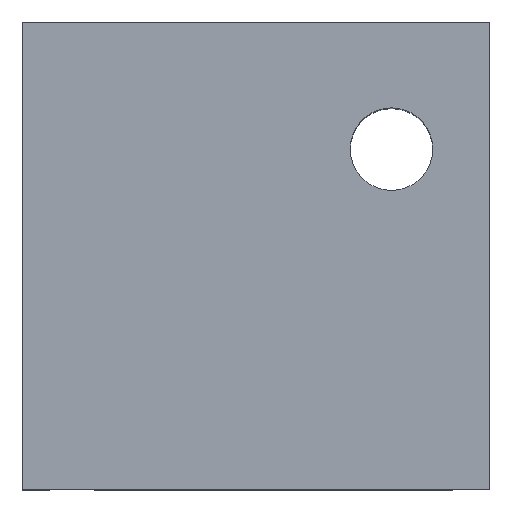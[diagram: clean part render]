
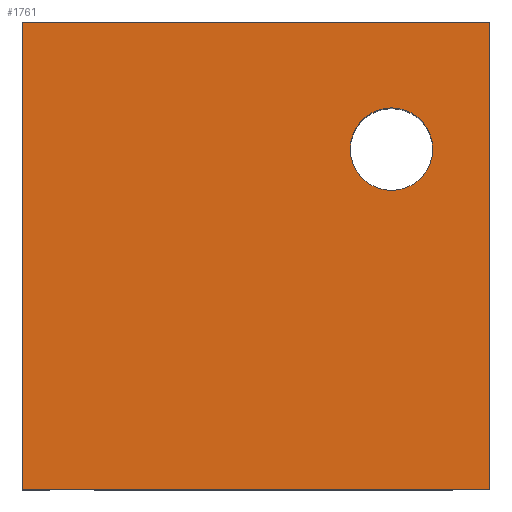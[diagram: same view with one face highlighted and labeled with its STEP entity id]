
A CAD part, top view. The second image highlights one B-rep face of the part: STEP entity #1761.
In plain terms, the highlighted planar face has unit normal (0, 0, 1).
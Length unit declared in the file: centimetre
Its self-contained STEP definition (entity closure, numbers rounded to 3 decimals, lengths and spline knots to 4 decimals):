
#86 = CARTESIAN_POINT ( 'NONE',  ( 789.9783, 727.9267, 1000. ) ) ;
#127 = ORIENTED_EDGE ( 'NONE', *, *, #1526, .T. ) ;
#144 = AXIS2_PLACEMENT_3D ( 'NONE', #1056, #621, #639 ) ;
#249 = EDGE_CURVE ( 'NONE', #1524, #1042, #1487, .T. ) ;
#259 = CARTESIAN_POINT ( 'NONE',  ( 701.6255, 727.9267, 1000. ) ) ;
#290 = ORIENTED_EDGE ( 'NONE', *, *, #699, .T. ) ;
#341 = DIRECTION ( 'NONE',  ( 0., 0., -1. ) ) ;
#351 = DIRECTION ( 'NONE',  ( -1., 0., 0. ) ) ;
#425 = DIRECTION ( 'NONE',  ( -1., 0., 0. ) ) ;
#460 = ORIENTED_EDGE ( 'NONE', *, *, #973, .T. ) ;
#494 = ORIENTED_EDGE ( 'NONE', *, *, #565, .T. ) ;
#498 = VECTOR ( 'NONE', #1743, 100. ) ;
#517 = FACE_OUTER_BOUND ( 'NONE', #1851, .T. ) ;
#523 = VERTEX_POINT ( 'NONE', #632 ) ;
#535 = CARTESIAN_POINT ( 'NONE',  ( 0., 1000., 1000. ) ) ;
#565 = EDGE_CURVE ( 'NONE', #523, #1471, #1227, .T. ) ;
#574 = CARTESIAN_POINT ( 'NONE',  ( 1000., 0., 1000. ) ) ;
#610 = ORIENTED_EDGE ( 'NONE', *, *, #249, .T. ) ;
#621 = DIRECTION ( 'NONE',  ( 0., 0., -1. ) ) ;
#632 = CARTESIAN_POINT ( 'NONE',  ( 0., 0., 1000. ) ) ;
#639 = DIRECTION ( 'NONE',  ( -1., 0., 0. ) ) ;
#682 = CARTESIAN_POINT ( 'NONE',  ( 0., 0., 1000. ) ) ;
#699 = EDGE_CURVE ( 'NONE', #1813, #523, #1281, .T. ) ;
#736 = LINE ( 'NONE', #1478, #1598 ) ;
#962 = CARTESIAN_POINT ( 'NONE',  ( 0., 0., 1000. ) ) ;
#973 = EDGE_CURVE ( 'NONE', #1042, #1524, #1007, .T. ) ;
#1006 = CARTESIAN_POINT ( 'NONE',  ( 878.331, 727.9267, 1000. ) ) ;
#1007 = CIRCLE ( 'NONE', #1502, 88.3528 ) ;
#1042 = VERTEX_POINT ( 'NONE', #259 ) ;
#1056 = CARTESIAN_POINT ( 'NONE',  ( 789.9783, 727.9267, 1000. ) ) ;
#1111 = ORIENTED_EDGE ( 'NONE', *, *, #1178, .T. ) ;
#1132 = DIRECTION ( 'NONE',  ( 0., 0., 1. ) ) ;
#1178 = EDGE_CURVE ( 'NONE', #1471, #1445, #736, .T. ) ;
#1227 = LINE ( 'NONE', #962, #1686 ) ;
#1281 = LINE ( 'NONE', #1570, #498 ) ;
#1304 = DIRECTION ( 'NONE',  ( 0., 1., 0. ) ) ;
#1321 = LINE ( 'NONE', #1781, #1615 ) ;
#1411 = PLANE ( 'NONE',  #1528 ) ;
#1445 = VERTEX_POINT ( 'NONE', #1610 ) ;
#1471 = VERTEX_POINT ( 'NONE', #574 ) ;
#1478 = CARTESIAN_POINT ( 'NONE',  ( 1000., 1000., 1000. ) ) ;
#1487 = CIRCLE ( 'NONE', #144, 88.3528 ) ;
#1502 = AXIS2_PLACEMENT_3D ( 'NONE', #86, #341, #351 ) ;
#1524 = VERTEX_POINT ( 'NONE', #1006 ) ;
#1526 = EDGE_CURVE ( 'NONE', #1445, #1813, #1321, .T. ) ;
#1528 = AXIS2_PLACEMENT_3D ( 'NONE', #682, #1132, #1841 ) ;
#1570 = CARTESIAN_POINT ( 'NONE',  ( 0., 1000., 1000. ) ) ;
#1598 = VECTOR ( 'NONE', #1304, 100. ) ;
#1610 = CARTESIAN_POINT ( 'NONE',  ( 1000., 1000., 1000. ) ) ;
#1615 = VECTOR ( 'NONE', #425, 100. ) ;
#1686 = VECTOR ( 'NONE', #1832, 100. ) ;
#1688 = FACE_BOUND ( 'NONE', #1856, .T. ) ;
#1743 = DIRECTION ( 'NONE',  ( 0., -1., 0. ) ) ;
#1761 = ADVANCED_FACE ( 'NONE', ( #1688, #517 ), #1411, .T. ) ;
#1781 = CARTESIAN_POINT ( 'NONE',  ( 0., 1000., 1000. ) ) ;
#1813 = VERTEX_POINT ( 'NONE', #535 ) ;
#1832 = DIRECTION ( 'NONE',  ( 1., 0., 0. ) ) ;
#1841 = DIRECTION ( 'NONE',  ( 1., 0., 0. ) ) ;
#1851 = EDGE_LOOP ( 'NONE', ( #290, #494, #1111, #127 ) ) ;
#1856 = EDGE_LOOP ( 'NONE', ( #460, #610 ) ) ;
